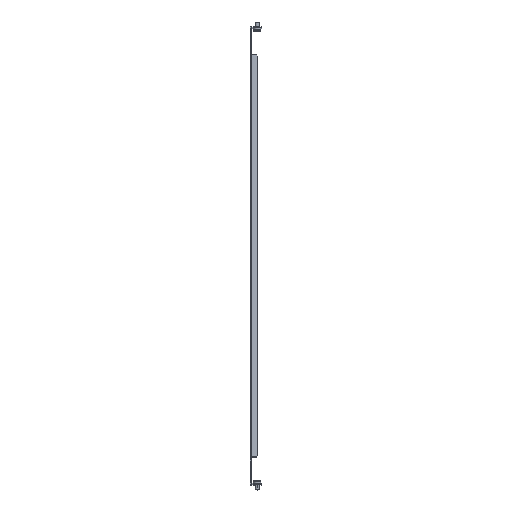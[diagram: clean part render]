
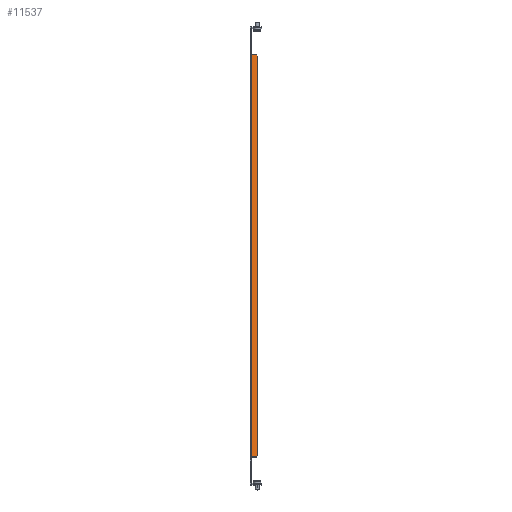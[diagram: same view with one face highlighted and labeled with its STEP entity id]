
A CAD part, top view. The second image highlights one B-rep face of the part: STEP entity #11537.
In plain terms, the highlighted planar face has unit normal (0.5, 0, 0.866).
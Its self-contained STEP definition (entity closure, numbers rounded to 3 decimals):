
#951 = FACE_OUTER_BOUND ( 'NONE', #21134, .T. ) ;
#986 = EDGE_CURVE ( 'NONE', #16421, #15036, #15550, .T. ) ;
#1080 = CARTESIAN_POINT ( 'NONE',  ( -1.242, 311.761, 295.398 ) ) ;
#1185 = VERTEX_POINT ( 'NONE', #11129 ) ;
#1191 = VECTOR ( 'NONE', #34083, 1000. ) ;
#1560 = EDGE_CURVE ( 'NONE', #1185, #15036, #33533, .T. ) ;
#1811 = LINE ( 'NONE', #22846, #30661 ) ;
#1864 = DIRECTION ( 'NONE',  ( -0.866, 0., 0.5 ) ) ;
#2371 = VERTEX_POINT ( 'NONE', #14582 ) ;
#2395 = VECTOR ( 'NONE', #11634, 1000. ) ;
#2501 = CARTESIAN_POINT ( 'NONE',  ( -1.242, -309.739, 295.398 ) ) ;
#2562 = CARTESIAN_POINT ( 'NONE',  ( -5.545, -309.739, 297.882 ) ) ;
#3386 = CARTESIAN_POINT ( 'NONE',  ( 1.356, -306.739, 293.898 ) ) ;
#3445 = VECTOR ( 'NONE', #10949, 1000. ) ;
#4393 = DIRECTION ( 'NONE',  ( 0., -1., 0. ) ) ;
#9092 = VECTOR ( 'NONE', #26733, 1000. ) ;
#9762 = PLANE ( 'NONE',  #21833 ) ;
#10329 = LINE ( 'NONE', #16262, #1191 ) ;
#10949 = DIRECTION ( 'NONE',  ( 0.866, 0., -0.5 ) ) ;
#11129 = CARTESIAN_POINT ( 'NONE',  ( -10.045, 311.761, 300.48 ) ) ;
#11193 = EDGE_CURVE ( 'NONE', #2371, #26240, #36638, .T. ) ;
#11537 = ADVANCED_FACE ( 'NONE', ( #951 ), #9762, .F. ) ;
#11634 = DIRECTION ( 'NONE',  ( -0.612, 0.707, 0.354 ) ) ;
#12061 = ORIENTED_EDGE ( 'NONE', *, *, #16303, .T. ) ;
#12304 = CARTESIAN_POINT ( 'NONE',  ( 118.818, -309.739, 226.081 ) ) ;
#13807 = EDGE_CURVE ( 'NONE', #35419, #27359, #10329, .T. ) ;
#13935 = EDGE_CURVE ( 'NONE', #35419, #26240, #35394, .T. ) ;
#14582 = CARTESIAN_POINT ( 'NONE',  ( -5.545, 311.761, 297.882 ) ) ;
#14711 = CARTESIAN_POINT ( 'NONE',  ( -1.242, 311.761, 295.398 ) ) ;
#15036 = VERTEX_POINT ( 'NONE', #21504 ) ;
#15409 = EDGE_CURVE ( 'NONE', #24287, #16421, #16604, .T. ) ;
#15550 = LINE ( 'NONE', #12304, #28060 ) ;
#16262 = CARTESIAN_POINT ( 'NONE',  ( 1.356, -309.739, 293.898 ) ) ;
#16303 = EDGE_CURVE ( 'NONE', #24287, #27359, #1811, .T. ) ;
#16421 = VERTEX_POINT ( 'NONE', #2562 ) ;
#16604 = LINE ( 'NONE', #30974, #20713 ) ;
#16759 = ORIENTED_EDGE ( 'NONE', *, *, #1560, .T. ) ;
#18573 = DIRECTION ( 'NONE',  ( 0.866, 0., -0.5 ) ) ;
#18964 = CARTESIAN_POINT ( 'NONE',  ( -10.045, 1.011, 300.48 ) ) ;
#20713 = VECTOR ( 'NONE', #1864, 1000. ) ;
#20886 = CARTESIAN_POINT ( 'NONE',  ( 1.356, 308.761, 293.898 ) ) ;
#21134 = EDGE_LOOP ( 'NONE', ( #36988, #12061, #29649, #22757, #32771, #34941, #16759, #22431 ) ) ;
#21504 = CARTESIAN_POINT ( 'NONE',  ( -10.045, -309.739, 300.48 ) ) ;
#21833 = AXIS2_PLACEMENT_3D ( 'NONE', #33149, #27004, #18573 ) ;
#21887 = CARTESIAN_POINT ( 'NONE',  ( 1.356, 311.761, 293.898 ) ) ;
#22431 = ORIENTED_EDGE ( 'NONE', *, *, #986, .F. ) ;
#22757 = ORIENTED_EDGE ( 'NONE', *, *, #13935, .T. ) ;
#22846 = CARTESIAN_POINT ( 'NONE',  ( 1.356, -306.739, 293.898 ) ) ;
#23660 = LINE ( 'NONE', #24037, #9092 ) ;
#24037 = CARTESIAN_POINT ( 'NONE',  ( -5.545, 311.761, 297.882 ) ) ;
#24287 = VERTEX_POINT ( 'NONE', #2501 ) ;
#26240 = VERTEX_POINT ( 'NONE', #1080 ) ;
#26733 = DIRECTION ( 'NONE',  ( -0.866, 0., 0.5 ) ) ;
#27004 = DIRECTION ( 'NONE',  ( -0.5, 0., -0.866 ) ) ;
#27225 = DIRECTION ( 'NONE',  ( -0.866, 0., 0.5 ) ) ;
#27359 = VERTEX_POINT ( 'NONE', #3386 ) ;
#28060 = VECTOR ( 'NONE', #27225, 1000. ) ;
#29649 = ORIENTED_EDGE ( 'NONE', *, *, #13807, .F. ) ;
#30661 = VECTOR ( 'NONE', #31484, 1000. ) ;
#30974 = CARTESIAN_POINT ( 'NONE',  ( -7.795, -309.739, 299.181 ) ) ;
#31484 = DIRECTION ( 'NONE',  ( 0.612, 0.707, -0.354 ) ) ;
#32771 = ORIENTED_EDGE ( 'NONE', *, *, #11193, .F. ) ;
#33149 = CARTESIAN_POINT ( 'NONE',  ( 118.818, 1.011, 226.081 ) ) ;
#33533 = LINE ( 'NONE', #18964, #34243 ) ;
#34083 = DIRECTION ( 'NONE',  ( 0., -1., 0. ) ) ;
#34243 = VECTOR ( 'NONE', #4393, 1000. ) ;
#34635 = EDGE_CURVE ( 'NONE', #2371, #1185, #23660, .T. ) ;
#34941 = ORIENTED_EDGE ( 'NONE', *, *, #34635, .T. ) ;
#35394 = LINE ( 'NONE', #14711, #2395 ) ;
#35419 = VERTEX_POINT ( 'NONE', #20886 ) ;
#36638 = LINE ( 'NONE', #21887, #3445 ) ;
#36988 = ORIENTED_EDGE ( 'NONE', *, *, #15409, .F. ) ;
